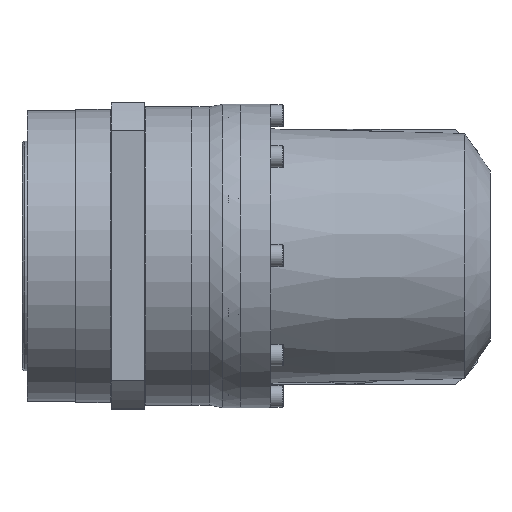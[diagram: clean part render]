
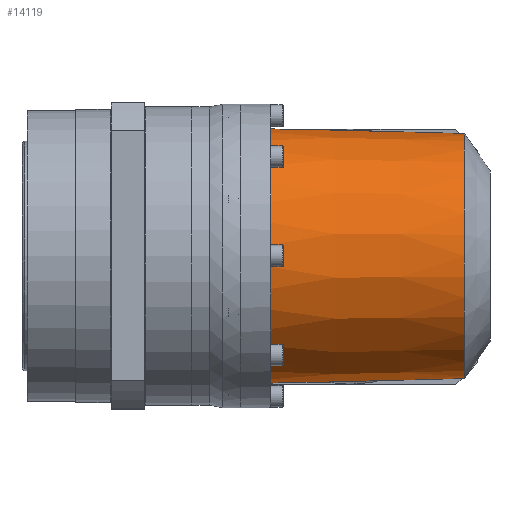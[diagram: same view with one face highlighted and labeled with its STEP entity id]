
A CAD part, top view. The second image highlights one B-rep face of the part: STEP entity #14119.
In plain terms, the highlighted conical face has half-angle 1.507 degrees and reference radius 49 mm.
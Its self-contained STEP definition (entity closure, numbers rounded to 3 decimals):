
#775=CONICAL_SURFACE('',#15747,49.,0.026);
#1610=FACE_OUTER_BOUND('',#2450,.T.);
#2450=EDGE_LOOP('',(#10775,#10776,#10777,#10778,#10779,#10780,#10781));
#3239=B_SPLINE_CURVE_WITH_KNOTS('',3,(#24111,#24112,#24113,#24114),
 .UNSPECIFIED.,.F.,.F.,(4,4),(0.5,5.292),
 .UNSPECIFIED.);
#3243=B_SPLINE_CURVE_WITH_KNOTS('',3,(#24272,#24273,#24274,#24275,#24276,
#24277,#24278,#24279,#24280,#24281,#24282,#24283,#24284,#24285,#24286,#24287,
#24288,#24289,#24290,#24291,#24292,#24293,#24294,#24295,#24296,#24297,#24298,
#24299,#24300,#24301,#24302,#24303,#24304,#24305,#24306,#24307,#24308,#24309,
#24310,#24311),.UNSPECIFIED.,.F.,.F.,(4,3,3,3,3,3,3,3,3,3,3,3,3,4),(-10.923,
-10.569,-10.204,-9.819,-9.568,
-9.149,-8.714,-8.257,-8.03,
-7.583,-7.137,-6.894,-6.651,
-6.492),.UNSPECIFIED.);
#3248=B_SPLINE_CURVE_WITH_KNOTS('',3,(#24344,#24345,#24346,#24347,#24348,
#24349,#24350,#24351,#24352,#24353,#24354,#24355,#24356,#24357,#24358,#24359,
#24360,#24361,#24362,#24363,#24364,#24365,#24366,#24367,#24368,#24369,#24370,
#24371,#24372,#24373,#24374,#24375,#24376,#24377,#24378,#24379,#24380,#24381,
#24382,#24383),.UNSPECIFIED.,.F.,.F.,(4,3,3,3,3,3,3,3,3,3,3,3,3,4),(-17.257,
-16.765,-16.229,-15.718,-15.217,-14.775,
-14.561,-14.258,-14.181,-13.89,
-13.609,-13.335,-13.072,-12.825),
 .UNSPECIFIED.);
#3249=B_SPLINE_CURVE_WITH_KNOTS('',3,(#24405,#24406,#24407,#24408),
 .UNSPECIFIED.,.F.,.F.,(4,4),(-5.292,-0.5),
 .UNSPECIFIED.);
#5018=CIRCLE('',#15748,48.);
#5019=CIRCLE('',#15749,48.);
#5020=CIRCLE('',#15750,50.);
#6340=VERTEX_POINT('',#24060);
#6341=VERTEX_POINT('',#24110);
#6343=VERTEX_POINT('',#24196);
#6344=VERTEX_POINT('',#24197);
#6345=VERTEX_POINT('',#24271);
#6349=VERTEX_POINT('',#24404);
#6352=VERTEX_POINT('',#24469);
#8093=EDGE_CURVE('',#6340,#6341,#3239,.T.);
#8097=EDGE_CURVE('',#6343,#6345,#3243,.T.);
#8102=EDGE_CURVE('',#6341,#6344,#3248,.T.);
#8103=EDGE_CURVE('',#6345,#6349,#3249,.T.);
#8107=EDGE_CURVE('',#6343,#6352,#5018,.T.);
#8108=EDGE_CURVE('',#6352,#6344,#5019,.T.);
#8109=EDGE_CURVE('',#6349,#6340,#5020,.T.);
#10775=ORIENTED_EDGE('',*,*,#8103,.F.);
#10776=ORIENTED_EDGE('',*,*,#8097,.F.);
#10777=ORIENTED_EDGE('',*,*,#8107,.T.);
#10778=ORIENTED_EDGE('',*,*,#8108,.T.);
#10779=ORIENTED_EDGE('',*,*,#8102,.F.);
#10780=ORIENTED_EDGE('',*,*,#8093,.F.);
#10781=ORIENTED_EDGE('',*,*,#8109,.F.);
#14119=ADVANCED_FACE('',(#1610),#775,.T.);
#15747=AXIS2_PLACEMENT_3D('',#24468,#18553,#18554);
#15748=AXIS2_PLACEMENT_3D('',#24470,#18555,#18556);
#15749=AXIS2_PLACEMENT_3D('',#24471,#18557,#18558);
#15750=AXIS2_PLACEMENT_3D('',#24472,#18559,#18560);
#18553=DIRECTION('center_axis',(-1.,0.,0.));
#18554=DIRECTION('ref_axis',(0.,0.,-1.));
#18555=DIRECTION('center_axis',(-1.,0.,0.));
#18556=DIRECTION('ref_axis',(0.,0.,1.));
#18557=DIRECTION('center_axis',(-1.,0.,0.));
#18558=DIRECTION('ref_axis',(0.,0.,1.));
#18559=DIRECTION('center_axis',(-1.,0.,0.));
#18560=DIRECTION('ref_axis',(0.,0.,1.));
#24060=CARTESIAN_POINT('',(12.,-35.15,35.559));
#24110=CARTESIAN_POINT('',(59.899,-34.554,34.374));
#24111=CARTESIAN_POINT('Ctrl Pts',(12.,-35.15,35.559));
#24112=CARTESIAN_POINT('Ctrl Pts',(27.966,-34.952,35.164));
#24113=CARTESIAN_POINT('Ctrl Pts',(43.932,-34.753,34.769));
#24114=CARTESIAN_POINT('Ctrl Pts',(59.899,-34.554,34.374));
#24196=CARTESIAN_POINT('',(88.,8.479,47.245));
#24197=CARTESIAN_POINT('',(88.,-8.479,47.245));
#24271=CARTESIAN_POINT('',(59.899,34.554,34.374));
#24272=CARTESIAN_POINT('Ctrl Pts',(88.,8.479,47.246));
#24273=CARTESIAN_POINT('Ctrl Pts',(87.704,9.501,47.07));
#24274=CARTESIAN_POINT('Ctrl Pts',(87.357,10.505,46.864));
#24275=CARTESIAN_POINT('Ctrl Pts',(86.962,11.488,46.631));
#24276=CARTESIAN_POINT('Ctrl Pts',(86.555,12.499,46.392));
#24277=CARTESIAN_POINT('Ctrl Pts',(86.099,13.488,46.125));
#24278=CARTESIAN_POINT('Ctrl Pts',(85.597,14.452,45.836));
#24279=CARTESIAN_POINT('Ctrl Pts',(85.068,15.466,45.53));
#24280=CARTESIAN_POINT('Ctrl Pts',(84.49,16.452,45.2));
#24281=CARTESIAN_POINT('Ctrl Pts',(83.867,17.405,44.849));
#24282=CARTESIAN_POINT('Ctrl Pts',(83.46,18.028,44.619));
#24283=CARTESIAN_POINT('Ctrl Pts',(83.034,18.637,44.381));
#24284=CARTESIAN_POINT('Ctrl Pts',(82.591,19.231,44.136));
#24285=CARTESIAN_POINT('Ctrl Pts',(81.849,20.225,43.726));
#24286=CARTESIAN_POINT('Ctrl Pts',(81.059,21.177,43.295));
#24287=CARTESIAN_POINT('Ctrl Pts',(80.223,22.089,42.849));
#24288=CARTESIAN_POINT('Ctrl Pts',(79.358,23.033,42.388));
#24289=CARTESIAN_POINT('Ctrl Pts',(78.444,23.934,41.912));
#24290=CARTESIAN_POINT('Ctrl Pts',(77.486,24.792,41.427));
#24291=CARTESIAN_POINT('Ctrl Pts',(76.482,25.691,40.919));
#24292=CARTESIAN_POINT('Ctrl Pts',(75.431,26.543,40.402));
#24293=CARTESIAN_POINT('Ctrl Pts',(74.336,27.347,39.884));
#24294=CARTESIAN_POINT('Ctrl Pts',(73.79,27.748,39.626));
#24295=CARTESIAN_POINT('Ctrl Pts',(73.233,28.138,39.368));
#24296=CARTESIAN_POINT('Ctrl Pts',(72.667,28.516,39.11));
#24297=CARTESIAN_POINT('Ctrl Pts',(71.556,29.257,38.605));
#24298=CARTESIAN_POINT('Ctrl Pts',(70.406,29.954,38.103));
#24299=CARTESIAN_POINT('Ctrl Pts',(69.22,30.605,37.613));
#24300=CARTESIAN_POINT('Ctrl Pts',(68.034,31.256,37.124));
#24301=CARTESIAN_POINT('Ctrl Pts',(66.811,31.862,36.647));
#24302=CARTESIAN_POINT('Ctrl Pts',(65.554,32.421,36.19));
#24303=CARTESIAN_POINT('Ctrl Pts',(64.87,32.726,35.942));
#24304=CARTESIAN_POINT('Ctrl Pts',(64.175,33.017,35.7));
#24305=CARTESIAN_POINT('Ctrl Pts',(63.471,33.294,35.466));
#24306=CARTESIAN_POINT('Ctrl Pts',(62.767,33.571,35.231));
#24307=CARTESIAN_POINT('Ctrl Pts',(62.053,33.834,35.005));
#24308=CARTESIAN_POINT('Ctrl Pts',(61.33,34.083,34.788));
#24309=CARTESIAN_POINT('Ctrl Pts',(60.857,34.246,34.645));
#24310=CARTESIAN_POINT('Ctrl Pts',(60.38,34.403,34.507));
#24311=CARTESIAN_POINT('Ctrl Pts',(59.899,34.554,34.374));
#24344=CARTESIAN_POINT('Ctrl Pts',(59.899,-34.554,34.374));
#24345=CARTESIAN_POINT('Ctrl Pts',(61.387,-34.087,34.787));
#24346=CARTESIAN_POINT('Ctrl Pts',(62.837,-33.563,35.243));
#24347=CARTESIAN_POINT('Ctrl Pts',(64.246,-32.982,35.727));
#24348=CARTESIAN_POINT('Ctrl Pts',(65.782,-32.349,36.256));
#24349=CARTESIAN_POINT('Ctrl Pts',(67.27,-31.648,36.82));
#24350=CARTESIAN_POINT('Ctrl Pts',(68.706,-30.882,37.403));
#24351=CARTESIAN_POINT('Ctrl Pts',(70.073,-30.152,37.959));
#24352=CARTESIAN_POINT('Ctrl Pts',(71.393,-29.363,38.532));
#24353=CARTESIAN_POINT('Ctrl Pts',(72.664,-28.514,39.11));
#24354=CARTESIAN_POINT('Ctrl Pts',(73.913,-27.68,39.678));
#24355=CARTESIAN_POINT('Ctrl Pts',(75.114,-26.789,40.251));
#24356=CARTESIAN_POINT('Ctrl Pts',(76.261,-25.841,40.817));
#24357=CARTESIAN_POINT('Ctrl Pts',(77.271,-25.005,41.315));
#24358=CARTESIAN_POINT('Ctrl Pts',(78.238,-24.124,41.809));
#24359=CARTESIAN_POINT('Ctrl Pts',(79.158,-23.199,42.289));
#24360=CARTESIAN_POINT('Ctrl Pts',(79.604,-22.751,42.522));
#24361=CARTESIAN_POINT('Ctrl Pts',(80.038,-22.292,42.752));
#24362=CARTESIAN_POINT('Ctrl Pts',(80.461,-21.822,42.978));
#24363=CARTESIAN_POINT('Ctrl Pts',(81.058,-21.158,43.297));
#24364=CARTESIAN_POINT('Ctrl Pts',(81.632,-20.474,43.609));
#24365=CARTESIAN_POINT('Ctrl Pts',(82.18,-19.768,43.91));
#24366=CARTESIAN_POINT('Ctrl Pts',(82.319,-19.589,43.986));
#24367=CARTESIAN_POINT('Ctrl Pts',(82.456,-19.408,44.062));
#24368=CARTESIAN_POINT('Ctrl Pts',(82.592,-19.227,44.137));
#24369=CARTESIAN_POINT('Ctrl Pts',(83.107,-18.537,44.422));
#24370=CARTESIAN_POINT('Ctrl Pts',(83.598,-17.827,44.697));
#24371=CARTESIAN_POINT('Ctrl Pts',(84.064,-17.1,44.96));
#24372=CARTESIAN_POINT('Ctrl Pts',(84.511,-16.4,45.213));
#24373=CARTESIAN_POINT('Ctrl Pts',(84.935,-15.683,45.454));
#24374=CARTESIAN_POINT('Ctrl Pts',(85.332,-14.95,45.682));
#24375=CARTESIAN_POINT('Ctrl Pts',(85.719,-14.236,45.905));
#24376=CARTESIAN_POINT('Ctrl Pts',(86.082,-13.506,46.116));
#24377=CARTESIAN_POINT('Ctrl Pts',(86.418,-12.763,46.312));
#24378=CARTESIAN_POINT('Ctrl Pts',(86.741,-12.048,46.5));
#24379=CARTESIAN_POINT('Ctrl Pts',(87.039,-11.32,46.676));
#24380=CARTESIAN_POINT('Ctrl Pts',(87.31,-10.581,46.836));
#24381=CARTESIAN_POINT('Ctrl Pts',(87.564,-9.89,46.986));
#24382=CARTESIAN_POINT('Ctrl Pts',(87.795,-9.189,47.123));
#24383=CARTESIAN_POINT('Ctrl Pts',(88.,-8.479,47.246));
#24404=CARTESIAN_POINT('',(12.,35.15,35.559));
#24405=CARTESIAN_POINT('Ctrl Pts',(59.899,34.554,34.374));
#24406=CARTESIAN_POINT('Ctrl Pts',(43.932,34.753,34.769));
#24407=CARTESIAN_POINT('Ctrl Pts',(27.966,34.952,35.164));
#24408=CARTESIAN_POINT('Ctrl Pts',(12.,35.15,35.559));
#24468=CARTESIAN_POINT('Origin',(50.,0.,0.));
#24469=CARTESIAN_POINT('',(88.,48.,0.));
#24470=CARTESIAN_POINT('Origin',(88.,0.,0.));
#24471=CARTESIAN_POINT('Origin',(88.,0.,0.));
#24472=CARTESIAN_POINT('Origin',(12.,0.,0.));
